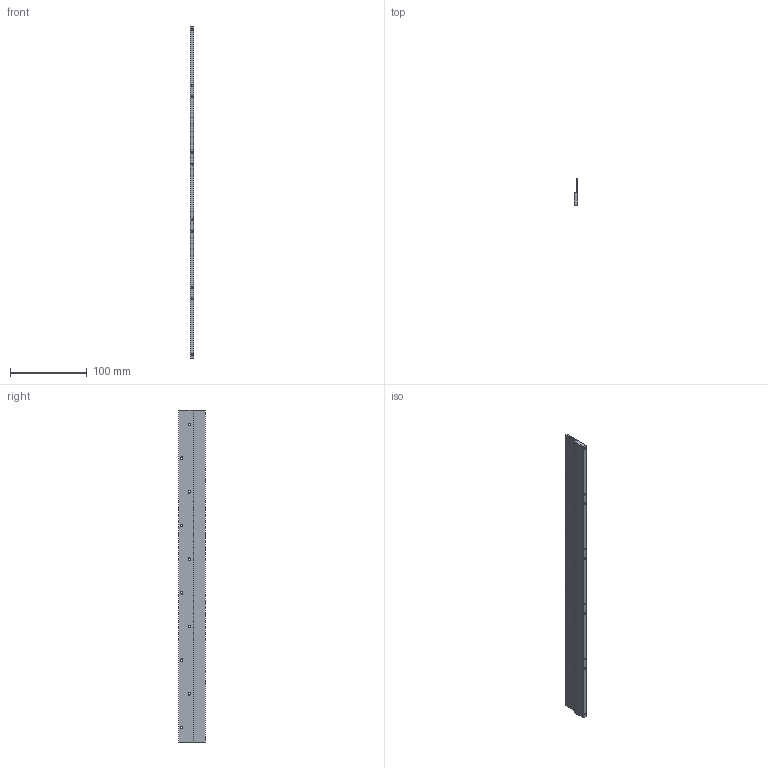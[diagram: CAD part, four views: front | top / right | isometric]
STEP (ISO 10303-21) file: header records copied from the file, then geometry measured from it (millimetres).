
FILE_DESCRIPTION(/* description */ ('Mounting Rail for 19" Subrack 3U','CAx-IF Rec.Pracs.---Representation and Presentation of Product Manufacturing Information (PMI)---4.0---2014-10-13'),/* implementation_level */ '2;1');
FILE_NAME(/* name */ 'E:\CAMTEC_2020_Pack and Go\Subrack_3U\2051050002CA.stp',/* time_stamp */ '2020-09-21T17:58:07+02:00',/* author */ ('rryba'),/* organization */ (''),/* preprocessor_version */ 'ST-DEVELOPER v18.1',/* originating_system */ 'Autodesk Inventor 2021',/* authorisation */ '');
FILE_SCHEMA (('AP242_MANAGED_MODEL_BASED_3D_ENGINEERING_MIM_LF { 1 0 10303 442 1 1 4 }'));
Length unit declared in the file: millimetre
Products named in the file (1): 2051050002CA
Bounding box: 5 x 35 x 434 mm (x, y, z)
Volume: 50253.8 mm3; surface area: 35904.3 mm2
Topology: 1 solids, 1 shells, 58 faces, 158 edges, 112 vertices
Faces by surface type: cylinder 30, cone 20, plane 8
Full cylindrical faces by diameter (mm): 2.459 x10, 3.4 x10, 5.9 x10
Entity records: 1822 total; most frequent: DIRECTION 326, CARTESIAN_POINT 299, ORIENTED_EDGE 256, AXIS2_PLACEMENT_3D 129, EDGE_CURVE 128, EDGE_LOOP 88, VERTEX_POINT 82, CIRCLE 70
